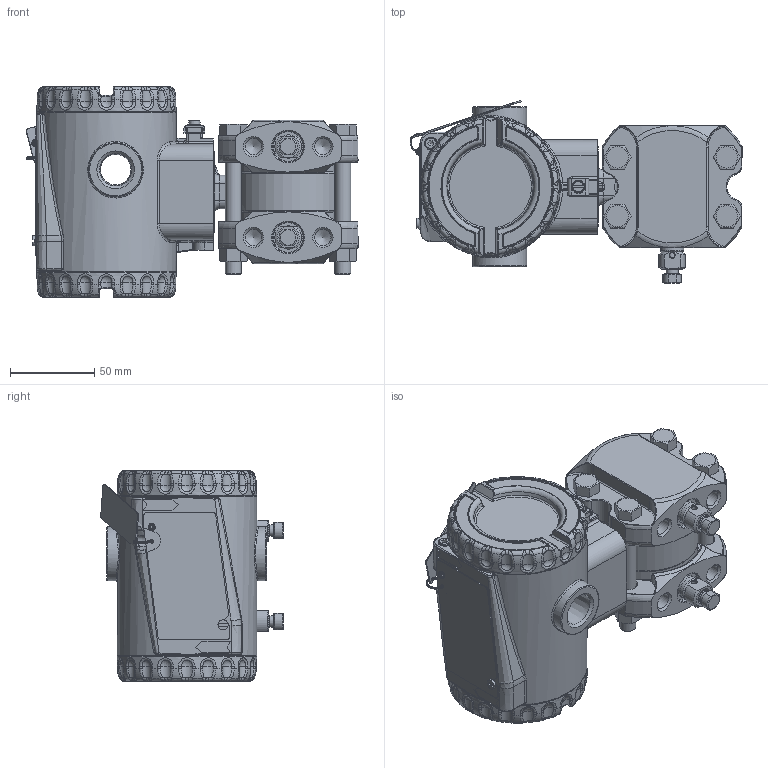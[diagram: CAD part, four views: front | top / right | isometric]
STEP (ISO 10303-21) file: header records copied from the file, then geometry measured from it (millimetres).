
FILE_DESCRIPTION(/* description */ (''),/* implementation_level */ '2;1');
FILE_NAME(/* name */ 'F:\Area\Desenvolvimento_2\Projects\Sensor\projetos\LD400-3d\dimensionais 3D clientes\LD400H0-3 1-4NPT monel purga oposta.stp',/* time_stamp */ '2023-02-02T11:20:49-03:00',/* author */ ('inventor02'),/* organization */ (''),/* preprocessor_version */ 'ST-DEVELOPER v17',/* originating_system */ 'Autodesk Inventor 2019',/* authorisation */ '');
FILE_SCHEMA (('CONFIG_CONTROL_DESIGN'));
Products named in the file (29): LD400H0-3 1-4NPT monel purga oposta; Carcaça 400 com tampas e plaqueta sem letras; 101-D-0845-05 carcaça LD400 sem letras; 101-B-3614-03-tampa 400 sem letras; Tampa visor 400 montada sem letras; 101-B-3612-05 tampa visor 400 sem letras; 101-A-6107; oring 2034; 00034775-0; WHW_250; DIN 915 - M6 x 10; Chapa aterramento externo; 201-A-1771-02 inserto terra recartilhado; AS 1969 - ST4,2; ISO 1207 - M4 x 8; ANSI B18.3.1M - M4x0,7 x 8; Subconjunto plaqueta 400; plaqueta 400 em branco; Parafuso da Plaqueta; Rebite da Plaqueta; 096-A-0169-03; 101-A-0502-01; diferencial FX0-3 monel purga oposta; involucro fx0-3 apos a usinagem final; 101-C-0040-05 monel barra 7-16; Paraf. 3-8 x 16 UNC; Porca 3-8 x 16 UNC; 075-B-0046-purgador; Sangria
Assembly tree (38 placements, depth 4):
  LD400H0-3 1-4NPT monel purga oposta
    Carcaça 400 com tampas e plaqueta sem letras
      101-D-0845-05 carcaça LD400 sem letras
      101-B-3614-03-tampa 400 sem letras
      Tampa visor 400 montada sem letras
        101-B-3612-05 tampa visor 400 sem letras
        101-A-6107
        oring 2034
        00034775-0
        WHW_250
      DIN 915 - M6 x 10
      Chapa aterramento externo
      201-A-1771-02 inserto terra recartilhado
      AS 1969 - ST4,2
      ISO 1207 - M4 x 8
      ANSI B18.3.1M - M4x0,7 x 8  x2
      Subconjunto plaqueta 400
        plaqueta 400 em branco
        Parafuso da Plaqueta
        Rebite da Plaqueta
        096-A-0169-03
        101-A-0502-01
    diferencial FX0-3 monel purga oposta
      involucro fx0-3 apos a usinagem final
      101-C-0040-05 monel barra 7-16  x2
      Paraf. 3-8 x 16 UNC  x4
      Porca 3-8 x 16 UNC  x4
      075-B-0046-purgador  x2
      Sangria  x2
Bounding box: 197.25 x 108.39 x 125 mm (x, y, z)
Volume: 665297.2 mm3; surface area: 240456.7 mm2
Topology: 34 solids, 34 shells, 2295 faces, 5663 edges, 3429 vertices
Faces by surface type: plane 607, bspline 527, cylinder 507, torus 354, cone 247, sphere 53
Full cylindrical faces by diameter (mm): 2 x2, 2.1 x1, 2.2 x1, 2.459 x3, 2.7 x1, 3 x5, 3.242 x3, 3.571 x1, 4 x4, 4.3 x2, 4.4 x1, 4.917 x1, 5 x4, 5.5 x2, 6 x2, 6.1 x2, 6.2 x1, 6.8 x2, 7 x4, 7.6 x2, 7.798 x4, 8 x2, 9.525 x4, 9.728 x8, 10.5 x8, 10.719 x4, 12 x2, 13.8 x2, 14 x1, 18.3 x2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
Entity records: 75725 total; most frequent: CARTESIAN_POINT 30474, ORIENTED_EDGE 9496, DIRECTION 9029, EDGE_CURVE 4748, AXIS2_PLACEMENT_3D 3800, VERTEX_POINT 2878, CIRCLE 2184, EDGE_LOOP 2046
